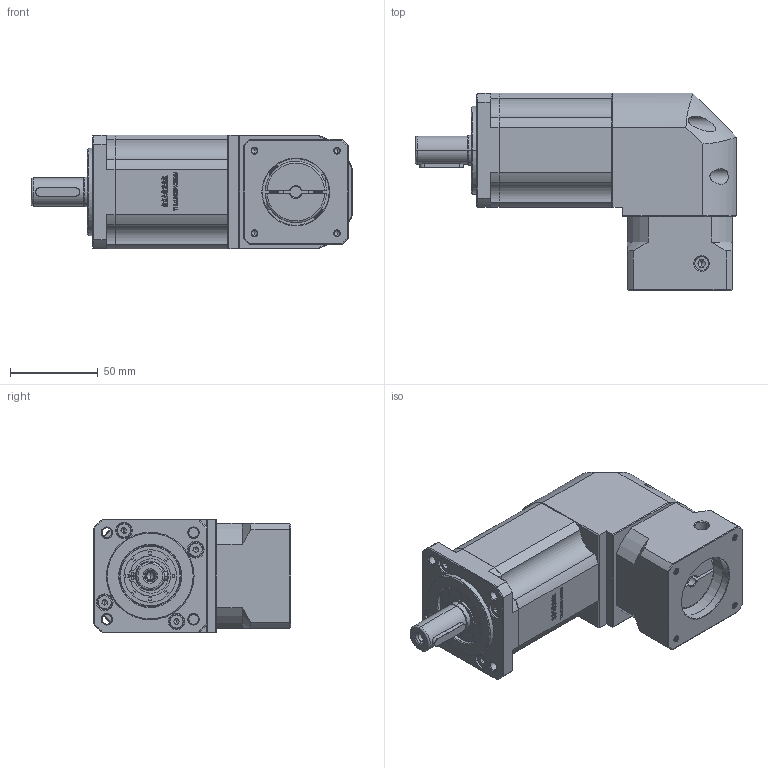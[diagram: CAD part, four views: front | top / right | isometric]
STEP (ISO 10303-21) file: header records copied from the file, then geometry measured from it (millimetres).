
FILE_DESCRIPTION (( 'STEP AP214' ), '1' );
FILE_NAME ('ZBR60-D16-L3-6.35-38.1-47.14x47.14-M4.STEP', '2022-04-19T08:13:52', ( '' ), ( 'Microsoft' ), 'SwSTEP 2.0', 'SolidWorks 2016', '' );
FILE_SCHEMA (( 'AUTOMOTIVE_DESIGN' ));
Length unit declared in the file: millimetre
Products named in the file (1): ZBR60-D16-L3-6.35-38.1-47.14x47.14-M4
Bounding box: 183.5 x 112.7 x 65 mm (x, y, z)
Volume: 653260.1 mm3; surface area: 87135.4 mm2
Topology: 5 solids, 5 shells, 2839 faces, 7670 edges, 4968 vertices
Faces by surface type: plane 1473, bspline 591, cylinder 426, cone 329, torus 20
Entity records: 153070 total; most frequent: CARTESIAN_POINT 54914, ORIENTED_EDGE 15280, DIRECTION 11606, EDGE_CURVE 7640, VECTOR 5042, LINE 5042, VERTEX_POINT 4968, AXIS2_PLACEMENT_3D 3282
